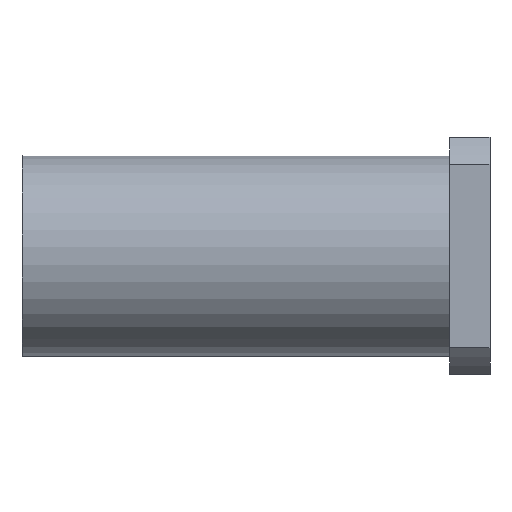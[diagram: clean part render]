
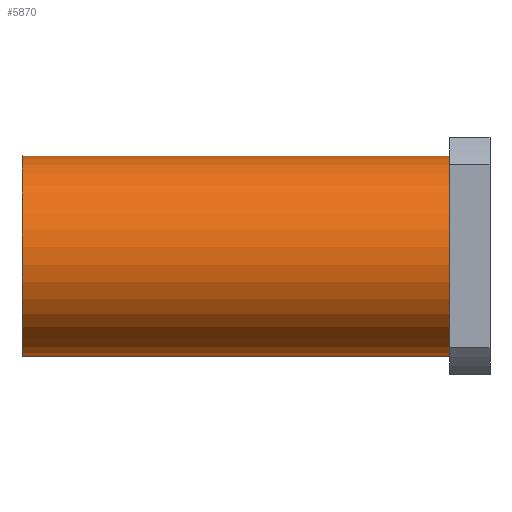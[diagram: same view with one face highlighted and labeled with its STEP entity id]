
A CAD part, front view. The second image highlights one B-rep face of the part: STEP entity #5870.
In plain terms, the highlighted cylindrical face has radius 45 mm (diameter 90 mm), a full revolution.
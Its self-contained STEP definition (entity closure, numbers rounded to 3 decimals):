
#84=CYLINDRICAL_SURFACE('',#6247,45.);
#117=CIRCLE('',#6248,45.);
#118=CIRCLE('',#6249,45.);
#1801=ORIENTED_EDGE('',*,*,#3492,.T.);
#1802=ORIENTED_EDGE('',*,*,#3493,.F.);
#3492=EDGE_CURVE('',#4336,#4336,#117,.T.);
#3493=EDGE_CURVE('',#4337,#4337,#118,.T.);
#4336=VERTEX_POINT('',#9279);
#4337=VERTEX_POINT('',#9281);
#4809=EDGE_LOOP('',(#1801));
#4810=EDGE_LOOP('',(#1802));
#5230=FACE_BOUND('',#4809,.T.);
#5231=FACE_BOUND('',#4810,.T.);
#5870=ADVANCED_FACE('',(#5230,#5231),#84,.T.);
#6247=AXIS2_PLACEMENT_3D('',#9277,#6802,#6803);
#6248=AXIS2_PLACEMENT_3D('',#9278,#6804,#6805);
#6249=AXIS2_PLACEMENT_3D('',#9280,#6806,#6807);
#6802=DIRECTION('',(-1.,0.,0.));
#6803=DIRECTION('',(0.,-0.707,0.707));
#6804=DIRECTION('',(1.,0.,0.));
#6805=DIRECTION('',(0.,0.707,-0.707));
#6806=DIRECTION('',(1.,0.,0.));
#6807=DIRECTION('',(0.,0.707,-0.707));
#9277=CARTESIAN_POINT('',(104.5,0.,0.));
#9278=CARTESIAN_POINT('',(-104.5,0.,0.));
#9279=CARTESIAN_POINT('',(-104.5,31.82,-31.82));
#9280=CARTESIAN_POINT('',(86.5,0.,0.));
#9281=CARTESIAN_POINT('',(86.5,31.82,-31.82));
